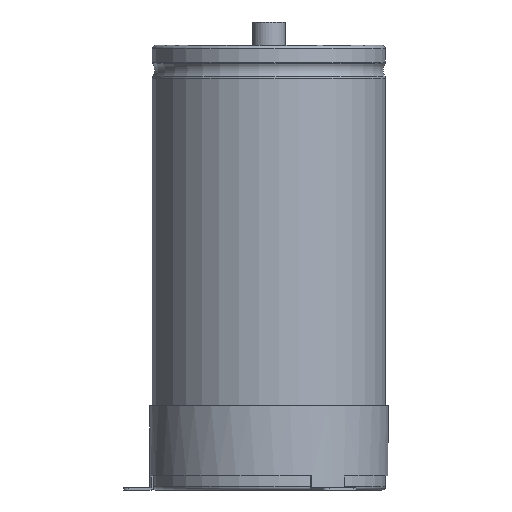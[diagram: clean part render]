
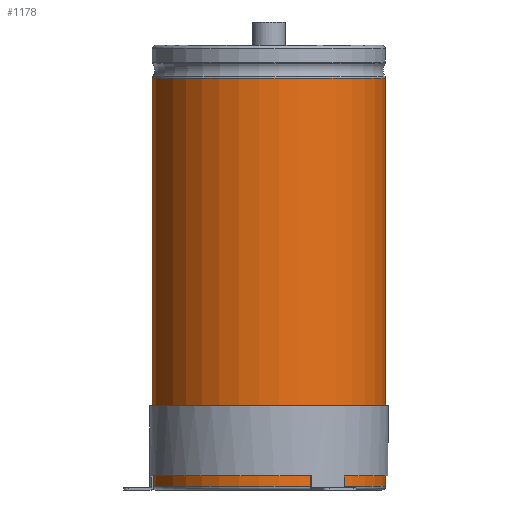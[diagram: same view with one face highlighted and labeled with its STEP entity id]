
A CAD part, front view. The second image highlights one B-rep face of the part: STEP entity #1178.
In plain terms, the highlighted cylindrical face has radius 50 mm (diameter 100 mm), a partial arc.
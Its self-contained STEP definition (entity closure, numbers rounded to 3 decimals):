
#684=CYLINDRICAL_SURFACE('',#4506,50.);
#749=LINE('',#6334,#963);
#750=LINE('',#6338,#964);
#963=VECTOR('',#5048,1.);
#964=VECTOR('',#5051,1.);
#1178=ADVANCED_FACE('',(#1484),#684,.T.);
#1484=FACE_OUTER_BOUND('',#1687,.T.);
#1687=EDGE_LOOP('',(#2003,#2004,#2005,#2006));
#2003=ORIENTED_EDGE('',*,*,#3618,.T.);
#2004=ORIENTED_EDGE('',*,*,#3619,.T.);
#2005=ORIENTED_EDGE('',*,*,#3620,.F.);
#2006=ORIENTED_EDGE('',*,*,#3621,.F.);
#3210=VERTEX_POINT('',#6327);
#3212=VERTEX_POINT('',#6331);
#3213=VERTEX_POINT('',#6335);
#3214=VERTEX_POINT('',#6337);
#3618=EDGE_CURVE('',#3210,#3212,#4223,.T.);
#3619=EDGE_CURVE('',#3212,#3213,#749,.T.);
#3620=EDGE_CURVE('',#3214,#3213,#4224,.T.);
#3621=EDGE_CURVE('',#3210,#3214,#750,.T.);
#4223=CIRCLE('',#4503,50.);
#4224=CIRCLE('',#4505,50.);
#4503=AXIS2_PLACEMENT_3D('',#6332,#5044,#5045);
#4505=AXIS2_PLACEMENT_3D('',#6336,#5049,#5050);
#4506=AXIS2_PLACEMENT_3D('',#6339,#5052,#5053);
#5044=DIRECTION('',(0.,0.,-1.));
#5045=DIRECTION('',(0.,1.,0.));
#5048=DIRECTION('',(0.,0.,-1.));
#5049=DIRECTION('',(0.,0.,-1.));
#5050=DIRECTION('',(0.,1.,0.));
#5051=DIRECTION('',(0.,0.,-1.));
#5052=DIRECTION('',(0.,0.,-1.));
#5053=DIRECTION('',(0.,1.,0.));
#6327=CARTESIAN_POINT('',(4.01,49.839,175.9));
#6331=CARTESIAN_POINT('',(-4.01,49.839,175.9));
#6332=CARTESIAN_POINT('',(0.,0.,175.9));
#6334=CARTESIAN_POINT('',(-4.01,49.839,175.9));
#6335=CARTESIAN_POINT('',(-4.01,49.839,1.5));
#6336=CARTESIAN_POINT('',(0.,0.,1.5));
#6337=CARTESIAN_POINT('',(4.01,49.839,1.5));
#6338=CARTESIAN_POINT('',(4.01,49.839,175.9));
#6339=CARTESIAN_POINT('',(0.,0.,0.));
